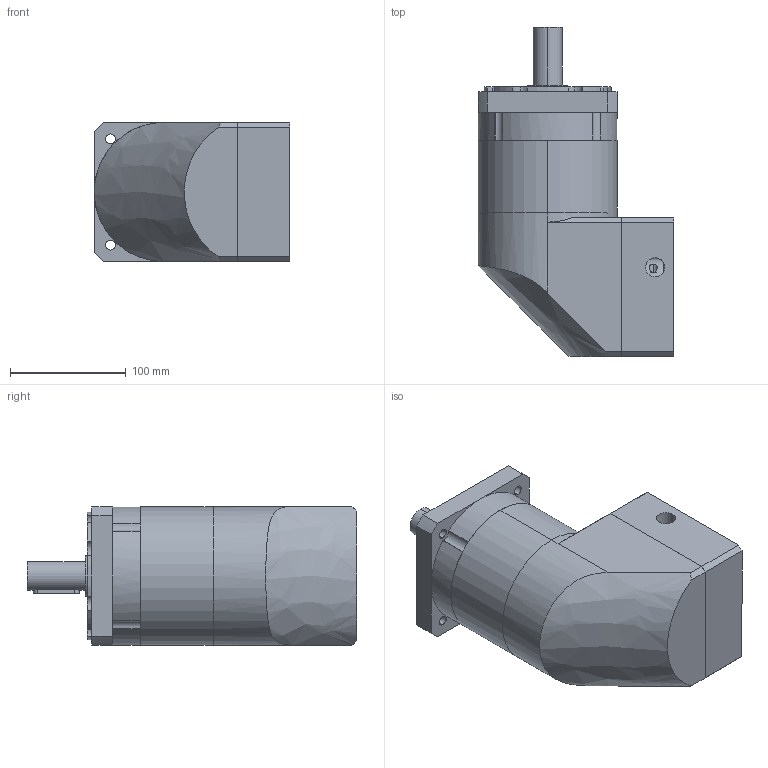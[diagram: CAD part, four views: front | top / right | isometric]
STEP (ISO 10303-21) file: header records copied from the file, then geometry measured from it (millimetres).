
FILE_DESCRIPTION (( 'STEP AP214' ), '1' );
FILE_NAME ('PFR120-L2-S2-P2 22-110-145-M8.STEP', '2023-08-26T05:57:27', ( '微软用户' ), ( '微软中国' ), 'SwSTEP 2.0', 'SolidWorks 2018', '' );
FILE_SCHEMA (( 'AUTOMOTIVE_DESIGN' ));
Length unit declared in the file: millimetre
Products named in the file (9): PFR120-眊极; PFR120-薊粣ん-梓袧; PFR120-L2-S2-P2 22-110-145-M8; PFR120 奻屳唳; PFR120-蟀諉啣; PFR120 內齿圈-优化_二级内齿圈; 粣創-3207A 35x72x27_2; 螺釘範本 M8x20; 邧埴瑩 8x7x40
Assembly tree (8 placements, depth 2):
  PFR120-L2-S2-P2 22-110-145-M8
    PFR120-眊极
    PFR120 內齿圈-优化_二级内齿圈
    PFR120 奻屳唳
    PFR120-蟀諉啣
    PFR120-薊粣ん-梓袧
    螺釘範本 M8x20
    邧埴瑩 8x7x40
    粣創-3207A 35x72x27_2
Bounding box: 169 x 284.5 x 120 mm (x, y, z)
Volume: 2988210.8 mm3; surface area: 315954.7 mm2
Topology: 8 solids, 16 shells, 591 faces, 1630 edges, 1058 vertices
Faces by surface type: cylinder 226, plane 198, bspline 139, cone 28
Entity records: 23407 total; most frequent: CARTESIAN_POINT 8584, ORIENTED_EDGE 3224, DIRECTION 2851, EDGE_CURVE 1612, AXIS2_PLACEMENT_3D 1143, VERTEX_POINT 1058, CIRCLE 680, EDGE_LOOP 672
